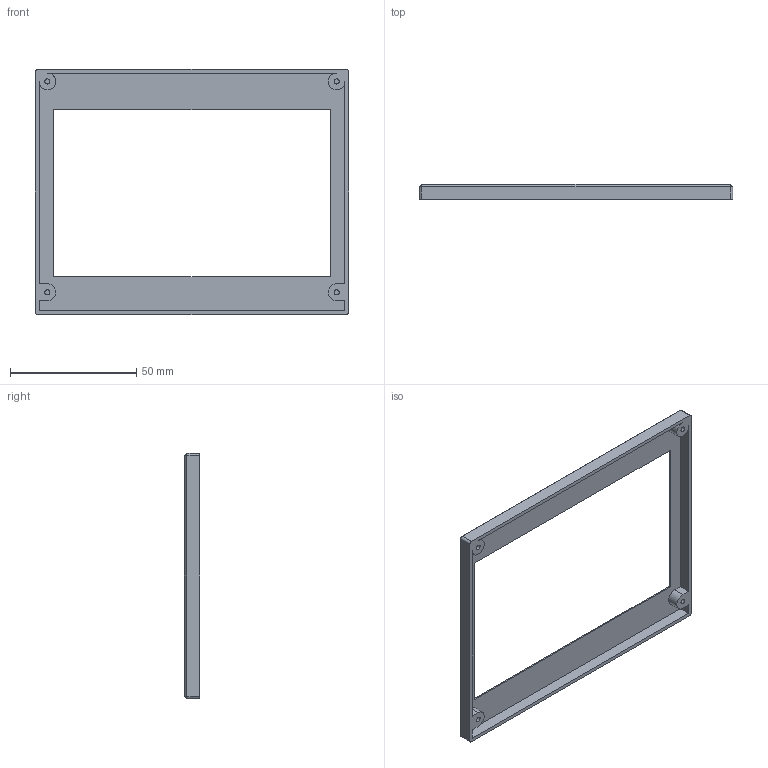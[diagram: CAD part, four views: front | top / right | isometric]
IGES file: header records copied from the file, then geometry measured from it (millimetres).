
Global section: file name: 5_in_waveshare_lcd_a_case_front v18; native system: unknown; preprocessor: unknown; author: unknown; organization: unknown; date: 20190608.115716; units: millimetre
Bounding box: 124.27 x 6.09 x 97.26 mm (x, y, z)
Volume: 10479.4 mm3; surface area: 14679.9 mm2
Topology: 1 solids, 1 shells, 49 faces, 114 edges, 68 vertices
Faces by surface type: bspline 49
